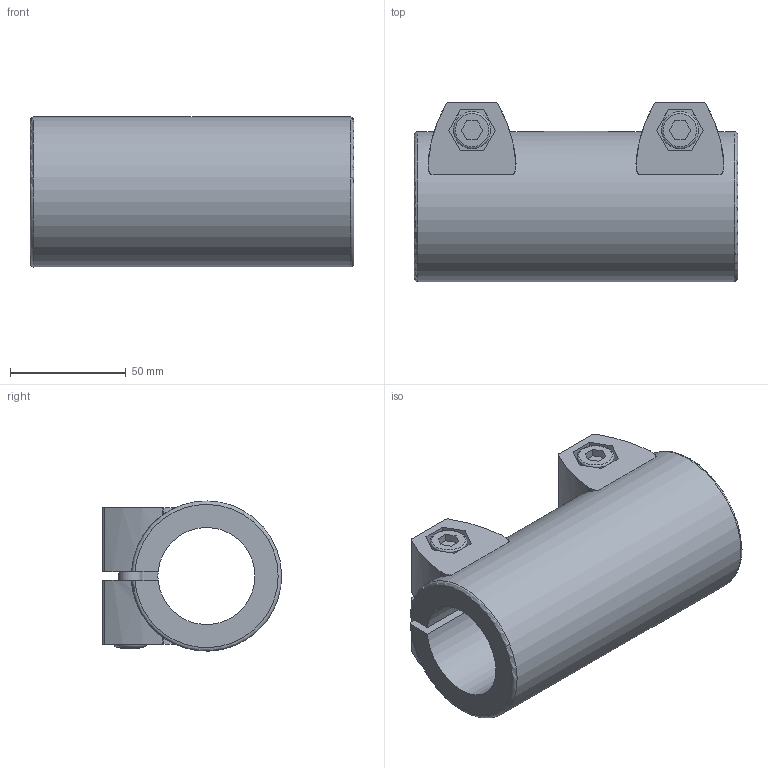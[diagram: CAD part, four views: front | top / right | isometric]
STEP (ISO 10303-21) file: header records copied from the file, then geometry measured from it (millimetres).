
FILE_DESCRIPTION( ( 'STEP AP203' ), '1' );
FILE_NAME( 'C:/Temp/Ganter_Step_05_03_2020/data/3_7/gn242/gn242_2/Tube connector GN 242-B42-B42-2-BL.stp', '2020-03-12T14:40:15', ( 'License CC BY-ND 4.0' ), ( 'CADENAS' ), ' ', 'PARTsolutions', ' ' );
FILE_SCHEMA( ( 'CONFIG_CONTROL_DESIGN' ) );
Length unit declared in the file: millimetre
Products named in the file (1): _Tube connector GN 242-B42-B42-2-BL
Bounding box: 140 x 77.48 x 64.96 mm (x, y, z)
Volume: 324807 mm3; surface area: 64299.5 mm2
Topology: 1 solids, 1 shells, 162 faces, 436 edges, 286 vertices
Faces by surface type: plane 84, cylinder 66, torus 8, cone 4
Full cylindrical faces by diameter (mm): 10 x2, 14 x2, 16 x2, 42 x1, 65 x1
Entity records: 5256 total; most frequent: CARTESIAN_POINT 1279, ORIENTED_EDGE 824, DIRECTION 782, EDGE_CURVE 412, VERTEX_POINT 282, AXIS2_PLACEMENT_3D 273, LINE 236, VECTOR 236
